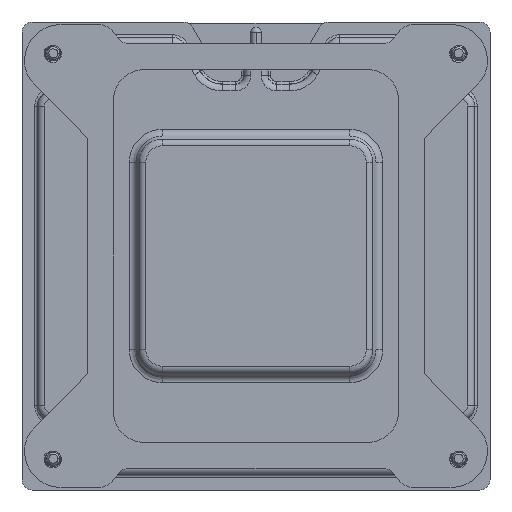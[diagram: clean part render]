
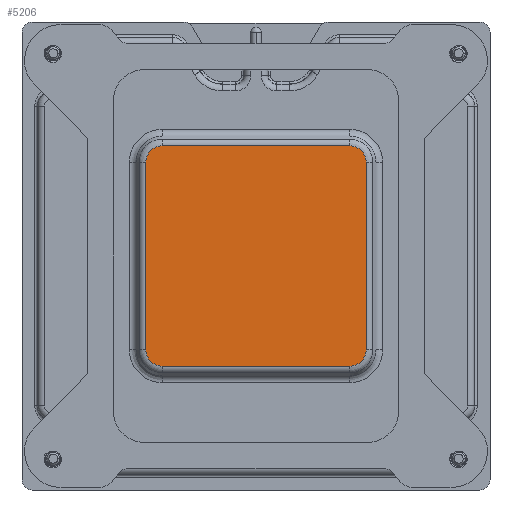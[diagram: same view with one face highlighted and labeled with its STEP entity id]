
A CAD part, front view. The second image highlights one B-rep face of the part: STEP entity #5206.
In plain terms, the highlighted planar face has unit normal (0, -1, 0).
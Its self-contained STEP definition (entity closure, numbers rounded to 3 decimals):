
#1660=DIRECTION('',(0.,0.,1.));
#1661=VECTOR('',#1660,36.001);
#1662=CARTESIAN_POINT('',(21.191,-3.7,-18.));
#1663=LINE('',#1662,#1661);
#1683=DIRECTION('',(1.,0.,0.));
#1684=VECTOR('',#1683,36.001);
#1685=CARTESIAN_POINT('',(-18.,-3.7,-21.191));
#1686=LINE('',#1685,#1684);
#1706=DIRECTION('',(0.,0.,-1.));
#1707=VECTOR('',#1706,36.001);
#1708=CARTESIAN_POINT('',(-21.191,-3.7,18.));
#1709=LINE('',#1708,#1707);
#1729=DIRECTION('',(-1.,0.,0.));
#1730=VECTOR('',#1729,36.001);
#1731=CARTESIAN_POINT('',(18.,-3.7,21.191));
#1732=LINE('',#1731,#1730);
#1752=CARTESIAN_POINT('',(18.,-3.7,-18.));
#1753=DIRECTION('',(0.,1.,0.));
#1754=DIRECTION('',(1.,0.,0.));
#1755=AXIS2_PLACEMENT_3D('',#1752,#1753,#1754);
#1757=CARTESIAN_POINT('',(-18.,-3.7,-18.));
#1758=DIRECTION('',(0.,1.,0.));
#1759=DIRECTION('',(0.,0.,-1.));
#1760=AXIS2_PLACEMENT_3D('',#1757,#1758,#1759);
#1762=CARTESIAN_POINT('',(-18.,-3.7,18.));
#1763=DIRECTION('',(0.,1.,0.));
#1764=DIRECTION('',(-1.,0.,0.));
#1765=AXIS2_PLACEMENT_3D('',#1762,#1763,#1764);
#1767=CARTESIAN_POINT('',(18.,-3.7,18.));
#1768=DIRECTION('',(0.,1.,0.));
#1769=DIRECTION('',(0.,0.,1.));
#1770=AXIS2_PLACEMENT_3D('',#1767,#1768,#1769);
#2764=CARTESIAN_POINT('',(21.191,-3.7,-18.));
#2765=VERTEX_POINT('',#2764);
#2766=CARTESIAN_POINT('',(21.191,-3.7,18.));
#2767=VERTEX_POINT('',#2766);
#2768=CARTESIAN_POINT('',(18.,-3.7,-21.191));
#2769=VERTEX_POINT('',#2768);
#2770=CARTESIAN_POINT('',(-18.,-3.7,-21.191));
#2771=VERTEX_POINT('',#2770);
#2772=CARTESIAN_POINT('',(-21.191,-3.7,-18.));
#2773=VERTEX_POINT('',#2772);
#2774=CARTESIAN_POINT('',(-21.191,-3.7,18.));
#2775=VERTEX_POINT('',#2774);
#2776=CARTESIAN_POINT('',(-18.,-3.7,21.191));
#2777=VERTEX_POINT('',#2776);
#2778=CARTESIAN_POINT('',(18.,-3.7,21.191));
#2779=VERTEX_POINT('',#2778);
#5191=CARTESIAN_POINT('',(-22.039,-3.7,22.039));
#5192=DIRECTION('',(0.,-1.,0.));
#5193=DIRECTION('',(0.,0.,-1.));
#5194=AXIS2_PLACEMENT_3D('',#5191,#5192,#5193);
#5195=PLANE('',#5194);
#5196=ORIENTED_EDGE('',*,*,#5086,.F.);
#5197=ORIENTED_EDGE('',*,*,#5101,.T.);
#5198=ORIENTED_EDGE('',*,*,#5115,.F.);
#5199=ORIENTED_EDGE('',*,*,#5129,.T.);
#5200=ORIENTED_EDGE('',*,*,#5143,.F.);
#5201=ORIENTED_EDGE('',*,*,#5157,.T.);
#5202=ORIENTED_EDGE('',*,*,#5171,.F.);
#5203=ORIENTED_EDGE('',*,*,#5184,.T.);
#5204=EDGE_LOOP('',(#5196,#5197,#5198,#5199,#5200,#5201,#5202,#5203));
#5205=FACE_OUTER_BOUND('',#5204,.F.);
#5206=ADVANCED_FACE('',(#5205),#5195,.T.);
#1756=CIRCLE('',#1755,3.191);
#1761=CIRCLE('',#1760,3.191);
#1766=CIRCLE('',#1765,3.191);
#1771=CIRCLE('',#1770,3.191);
#5086=EDGE_CURVE('',#2765,#2767,#1663,.T.);
#5101=EDGE_CURVE('',#2765,#2769,#1756,.T.);
#5115=EDGE_CURVE('',#2771,#2769,#1686,.T.);
#5129=EDGE_CURVE('',#2771,#2773,#1761,.T.);
#5143=EDGE_CURVE('',#2775,#2773,#1709,.T.);
#5157=EDGE_CURVE('',#2775,#2777,#1766,.T.);
#5171=EDGE_CURVE('',#2779,#2777,#1732,.T.);
#5184=EDGE_CURVE('',#2779,#2767,#1771,.T.);
